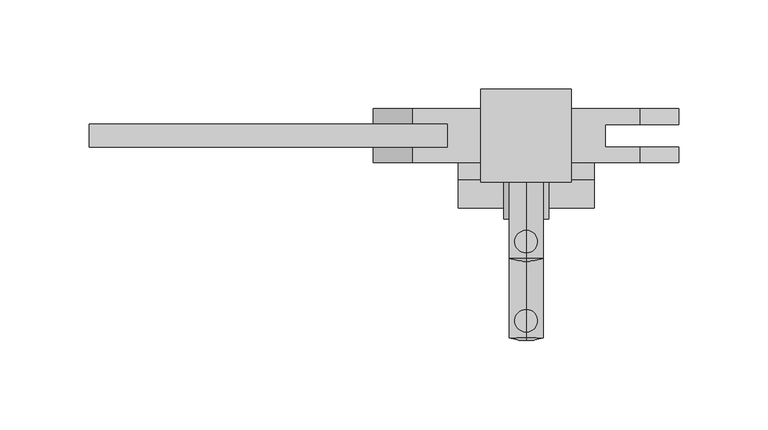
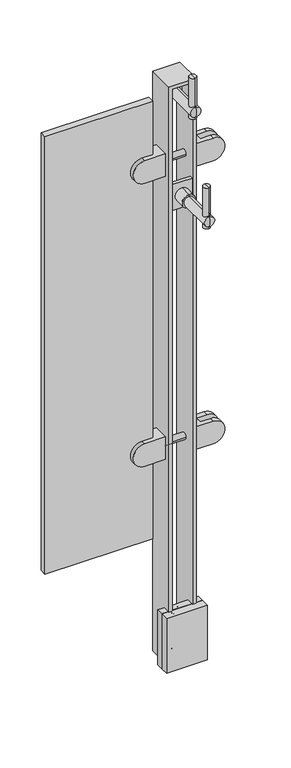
"""IFC4 building model written with IfcOpenShell, lengths in millimetres: proxy geometry, LIVERS_ICN - Glass Panel : LIVERS_ICN - Glass Panel."""

from ifc_helpers import new_model, si_unit, point, frame, origin, place, context, project, spatial, polyline, circle_curve, ellipse_curve, trimmed, outline, extrude, faceted_brep, source, transform, mapped, element, save
from ifc_brep_helpers import plane_surface, cylinder_surface, revolved_surface, advanced_brep


def building_element_proxy_cf4448e7(model_context):
    return source(origin(), model_context, "Body", "SolidModel", [
        advanced_brep(
        [(779.2517376, 60.3249609, 991.2180522), (779.2517376, 60.3249609, 978.5180522), (779.2517376, 60.3249609, 965.8180522), (779.2517376, 38.0999609, 991.2180522), (779.2517376, 38.0999609, 965.8180522), (779.2517376, 38.0999609, 978.5180522)],
        [
            (0, 1),
            (1, 2),
            (2, 0, circle_curve(frame((779.2517376, 60.3249609, 978.5180522), z_axis=(0.0, 1.0, 0.0), x_axis=(0.0, 0.0, -1.0)), 12.7)),
            (0, 2, circle_curve(frame((779.2517376, 60.3249609, 978.5180522), z_axis=(0.0, 1.0, 0.0), x_axis=(0.0, 0.0, -1.0)), 12.7)),
            (3, 0),
            (2, 4),
            (4, 3, circle_curve(frame((779.2517376, 38.0999609, 978.5180522), z_axis=(0.0, 1.0, 0.0), x_axis=(0.0, 0.0, -1.0)), 12.7)),
            (3, 4, circle_curve(frame((779.2517376, 38.0999609, 978.5180522), z_axis=(0.0, 1.0, 0.0), x_axis=(0.0, 0.0, -1.0)), 12.7)),
            (5, 3),
            (4, 5),
        ],
        [
            plane_surface(frame((779.2517376, 60.3249609, 978.5180522), z_axis=(0.0, 1.0, 0.0), x_axis=(0.0, 0.0, -1.0))),
            cylinder_surface(frame((779.2517376, 69.3828283, 978.5180522), z_axis=(0.0, -1.0, 0.0), x_axis=(0.0, 0.0, -1.0)), 12.7),
            plane_surface(frame((779.2517376, 38.0999609, 978.5180522), z_axis=(0.0, -1.0, 0.0), x_axis=(0.0, 0.0, -1.0))),
        ],
        [
            (0, [[1, 2, 3]]),
            (0, [[-2, -1, 4]]),
            (1, [[5, -3, 6, 7]]),
            (1, [[-6, -4, -5, 8]]),
            (2, [[9, -7, 10]]),
            (2, [[-10, -8, -9]]),
        ],
    ),
        advanced_brep(
        [(779.2517376, -25.4004131, 1043.1838845), (779.2517376, -19.0504161, 1043.1838845), (779.2517376, -12.7004191, 1043.1838845), (779.2517376, -25.4004131, 962.7878163), (779.2517376, -12.7004191, 962.7878163), (779.2517376, -19.0504161, 962.7878163)],
        [
            (0, 1),
            (1, 2),
            (2, 0, circle_curve(frame((779.2517376, -19.0504161, 1043.1838845), z_axis=(0.0, 0.0, 1.0), x_axis=(0.0, 1.0, 0.0)), 6.349997)),
            (0, 2, circle_curve(frame((779.2517376, -19.0504161, 1043.1838845), z_axis=(0.0, 0.0, 1.0), x_axis=(0.0, 1.0, 0.0)), 6.349997)),
            (3, 0),
            (2, 4),
            (4, 3, circle_curve(frame((779.2517376, -19.0504161, 962.7878163), z_axis=(0.0, 0.0, 1.0), x_axis=(0.0, 1.0, 0.0)), 6.349997)),
            (3, 4, circle_curve(frame((779.2517376, -19.0504161, 962.7878163), z_axis=(0.0, 0.0, 1.0), x_axis=(0.0, 1.0, 0.0)), 6.349997)),
            (5, 3),
            (4, 5),
        ],
        [
            plane_surface(frame((779.2517376, -19.0504161, 1043.1838845), z_axis=(0.0, 0.0, 1.0), x_axis=(0.0, 1.0, 0.0))),
            cylinder_surface(frame((779.2517376, -19.0504161, 1057.0348914), z_axis=(0.0, 0.0, -1.0), x_axis=(0.0, 1.0, 0.0)), 6.349997),
            plane_surface(frame((779.2517376, -19.0504161, 962.7878163), z_axis=(0.0, 0.0, -1.0), x_axis=(0.0, 1.0, 0.0))),
        ],
        [
            (0, [[1, 2, 3]]),
            (0, [[-2, -1, 4]]),
            (1, [[5, -3, 6, 7]]),
            (1, [[-6, -4, -5, 8]]),
            (2, [[9, -7, 10]]),
            (2, [[-10, -8, -9]]),
        ],
    ),
        advanced_brep(
        [(779.2517376, -30.1375464, 978.5180522), (779.2517376, -28.5500464, 988.0430522), (779.2517376, -28.5500464, 968.9930522), (779.2517376, 38.0999609, 988.0430522), (779.2517376, 38.0999609, 978.5180522), (779.2517376, 38.0999609, 968.9930522)],
        [
            (0, 1, circle_curve(frame((779.2517376, -0.7687964, 978.5180522), z_axis=(-1.0, 0.0, 0.0), x_axis=(0.0, 1.0, 0.0)), 29.36875)),
            (1, 2, circle_curve(frame((779.2517376, -28.5500464, 978.5180522), z_axis=(0.0, -1.0, 0.0), x_axis=(0.0, 0.0, -1.0)), 9.525)),
            (2, 0, circle_curve(frame((779.2517376, -0.7687964, 978.5180522), z_axis=(-1.0, 0.0, 0.0), x_axis=(0.0, 1.0, 0.0)), 29.36875)),
            (2, 1, circle_curve(frame((779.2517376, -28.5500464, 978.5180522), z_axis=(0.0, -1.0, 0.0), x_axis=(0.0, 0.0, -1.0)), 9.525)),
            (3, 4),
            (4, 5),
            (5, 3, circle_curve(frame((779.2517376, 38.0999609, 978.5180522), z_axis=(0.0, 1.0, 0.0), x_axis=(0.0, 0.0, -1.0)), 9.525)),
            (3, 5, circle_curve(frame((779.2517376, 38.0999609, 978.5180522), z_axis=(0.0, 1.0, 0.0), x_axis=(0.0, 0.0, -1.0)), 9.525)),
            (1, 3),
            (5, 2),
        ],
        [
            revolved_surface(trimmed(ellipse_curve(frame((779.2517376, -0.7687964, 978.5180522), z_axis=(-1.0, 0.0, 0.0), x_axis=(0.0, 1.0, 0.0)), 29.36875, 29.36875), [point((779.2517376, -28.5500464, 968.9930522))], [point((779.2517376, -30.1375464, 978.5180522))], True, "CARTESIAN"), (779.2517376, 30.3031204, 978.5180522), (0.0, -1.0, 0.0)),
            plane_surface(frame((779.2517376, 38.0999609, 978.5180522), z_axis=(0.0, 1.0, 0.0), x_axis=(0.0, 0.0, -1.0))),
            cylinder_surface(frame((779.2517376, 30.3031204, 978.5180522), z_axis=(0.0, -1.0, 0.0), x_axis=(0.0, 0.0, -1.0)), 9.525),
        ],
        [
            (0, [[1, 2, 3]]),
            (0, [[-3, 4, -1]]),
            (1, [[5, 6, 7]]),
            (1, [[-6, -5, 8]]),
            (2, [[9, -7, 10, -2]]),
            (2, [[-10, -8, -9, -4]]),
        ],
    ),
        extrude(outline(polyline([(798.3017376, 66.6749609), (798.3017376, 60.3249609), (760.2017376, 60.3249609), (760.2017376, 66.6749609), (798.3017376, 66.6749609)])), frame((0.0, 0.0, 953.1180522), z_axis=(0.0, 0.0, 1.0), x_axis=(1.0, 0.0, 0.0)), (0.0, 0.0, 1.0), 50.8),
        advanced_brep(
        [(779.2517376, 15.875, 802.0090959), (779.2517376, 15.875, 789.3090959), (779.2517376, 15.875, 776.6090959), (779.2517376, -6.35, 802.0090959), (779.2517376, -6.35, 776.6090959), (779.2517376, -6.35, 789.3090959)],
        [
            (0, 1),
            (1, 2),
            (2, 0, circle_curve(frame((779.2517376, 15.875, 789.3090959), z_axis=(0.0, 1.0, 0.0), x_axis=(0.0, 0.0, -1.0)), 12.7)),
            (0, 2, circle_curve(frame((779.2517376, 15.875, 789.3090959), z_axis=(0.0, 1.0, 0.0), x_axis=(0.0, 0.0, -1.0)), 12.7)),
            (3, 0),
            (2, 4),
            (4, 3, circle_curve(frame((779.2517376, -6.35, 789.3090959), z_axis=(0.0, 1.0, 0.0), x_axis=(0.0, 0.0, -1.0)), 12.7)),
            (3, 4, circle_curve(frame((779.2517376, -6.35, 789.3090959), z_axis=(0.0, 1.0, 0.0), x_axis=(0.0, 0.0, -1.0)), 12.7)),
            (5, 3),
            (4, 5),
        ],
        [
            plane_surface(frame((779.2517376, 15.875, 789.3090959), z_axis=(0.0, 1.0, 0.0), x_axis=(0.0, 0.0, -1.0))),
            cylinder_surface(frame((779.2517376, 24.9328674, 789.3090959), z_axis=(0.0, -1.0, 0.0), x_axis=(0.0, 0.0, -1.0)), 12.7),
            plane_surface(frame((779.2517376, -6.35, 789.3090959), z_axis=(0.0, -1.0, 0.0), x_axis=(0.0, 0.0, -1.0))),
        ],
        [
            (0, [[1, 2, 3]]),
            (0, [[-2, -1, 4]]),
            (1, [[5, -3, 6, 7]]),
            (1, [[-6, -4, -5, 8]]),
            (2, [[9, -7, 10]]),
            (2, [[-10, -8, -9]]),
        ],
    ),
        advanced_brep(
        [(779.2517376, -69.850374, 853.9749282), (779.2517376, -63.500377, 853.9749282), (779.2517376, -57.15038, 853.9749282), (779.2517376, -69.850374, 773.57886), (779.2517376, -57.15038, 773.57886), (779.2517376, -63.500377, 773.57886)],
        [
            (0, 1),
            (1, 2),
            (2, 0, circle_curve(frame((779.2517376, -63.500377, 853.9749282), z_axis=(0.0, 0.0, 1.0), x_axis=(0.0, 1.0, 0.0)), 6.349997)),
            (0, 2, circle_curve(frame((779.2517376, -63.500377, 853.9749282), z_axis=(0.0, 0.0, 1.0), x_axis=(0.0, 1.0, 0.0)), 6.349997)),
            (3, 0),
            (2, 4),
            (4, 3, circle_curve(frame((779.2517376, -63.500377, 773.57886), z_axis=(0.0, 0.0, 1.0), x_axis=(0.0, 1.0, 0.0)), 6.349997)),
            (3, 4, circle_curve(frame((779.2517376, -63.500377, 773.57886), z_axis=(0.0, 0.0, 1.0), x_axis=(0.0, 1.0, 0.0)), 6.349997)),
            (5, 3),
            (4, 5),
        ],
        [
            plane_surface(frame((779.2517376, -63.500377, 853.9749282), z_axis=(0.0, 0.0, 1.0), x_axis=(0.0, 1.0, 0.0))),
            cylinder_surface(frame((779.2517376, -63.500377, 867.8259351), z_axis=(0.0, 0.0, -1.0), x_axis=(0.0, 1.0, 0.0)), 6.349997),
            plane_surface(frame((779.2517376, -63.500377, 773.57886), z_axis=(0.0, 0.0, -1.0), x_axis=(0.0, 1.0, 0.0))),
        ],
        [
            (0, [[1, 2, 3]]),
            (0, [[-2, -1, 4]]),
            (1, [[5, -3, 6, 7]]),
            (1, [[-6, -4, -5, 8]]),
            (2, [[9, -7, 10]]),
            (2, [[-10, -8, -9]]),
        ],
    ),
        advanced_brep(
        [(779.2517376, -74.5875073, 789.3090959), (779.2517376, -73.0000073, 798.8340959), (779.2517376, -73.0000073, 779.7840959), (779.2517376, -6.35, 798.8340959), (779.2517376, -6.35, 789.3090959), (779.2517376, -6.35, 779.7840959)],
        [
            (0, 1, circle_curve(frame((779.2517376, -45.2187573, 789.3090959), z_axis=(-1.0, 0.0, 0.0), x_axis=(0.0, 1.0, 0.0)), 29.36875)),
            (1, 2, circle_curve(frame((779.2517376, -73.0000073, 789.3090959), z_axis=(0.0, -1.0, 0.0), x_axis=(0.0, 0.0, -1.0)), 9.525)),
            (2, 0, circle_curve(frame((779.2517376, -45.2187573, 789.3090959), z_axis=(-1.0, 0.0, 0.0), x_axis=(0.0, 1.0, 0.0)), 29.36875)),
            (2, 1, circle_curve(frame((779.2517376, -73.0000073, 789.3090959), z_axis=(0.0, -1.0, 0.0), x_axis=(0.0, 0.0, -1.0)), 9.525)),
            (3, 4),
            (4, 5),
            (5, 3, circle_curve(frame((779.2517376, -6.35, 789.3090959), z_axis=(0.0, 1.0, 0.0), x_axis=(0.0, 0.0, -1.0)), 9.525)),
            (3, 5, circle_curve(frame((779.2517376, -6.35, 789.3090959), z_axis=(0.0, 1.0, 0.0), x_axis=(0.0, 0.0, -1.0)), 9.525)),
            (1, 3),
            (5, 2),
        ],
        [
            revolved_surface(trimmed(ellipse_curve(frame((779.2517376, -45.2187573, 789.3090959), z_axis=(-1.0, 0.0, 0.0), x_axis=(0.0, 1.0, 0.0)), 29.36875, 29.36875), [point((779.2517376, -73.0000073, 779.7840959))], [point((779.2517376, -74.5875073, 789.3090959))], True, "CARTESIAN"), (779.2517376, -14.1468405, 789.3090959), (0.0, -1.0, 0.0)),
            plane_surface(frame((779.2517376, -6.35, 789.3090959), z_axis=(0.0, 1.0, 0.0), x_axis=(0.0, 0.0, -1.0))),
            cylinder_surface(frame((779.2517376, -14.1468405, 789.3090959), z_axis=(0.0, -1.0, 0.0), x_axis=(0.0, 0.0, -1.0)), 9.525),
        ],
        [
            (0, [[1, 2, 3]]),
            (0, [[-3, 4, -1]]),
            (1, [[5, 6, 7]]),
            (1, [[-6, -5, 8]]),
            (2, [[9, -7, 10, -2]]),
            (2, [[-10, -8, -9, -4]]),
        ],
    ),
        extrude(outline(polyline([(798.3017376, 22.225), (798.3017376, 15.875), (760.2017376, 15.875), (760.2017376, 22.225), (798.3017376, 22.225)])), frame((0.0, 0.0, 763.9090959), z_axis=(0.0, 0.0, 1.0), x_axis=(1.0, 0.0, 0.0)), (0.0, 0.0, 1.0), 50.8),
        advanced_brep(
        [(753.8517376, 55.5624457, 313.5369168), (753.8517376, 25.3999457, 313.5369168), (753.8517376, 25.3999457, 269.0869168), (753.8517376, 55.5624457, 269.0869168), (715.6506436, 55.5624457, 269.0869168), (715.6506436, 55.5624457, 313.5369168), (715.6506436, 25.3999457, 269.0869168), (715.6506436, 34.1311957, 269.0869168), (734.9798183, 34.1311957, 269.0869168), (734.9798183, 46.8311957, 269.0869168), (715.6506436, 46.8311957, 269.0869168), (715.6506436, 25.3999457, 313.5369168), (715.6506436, 46.8311957, 313.5369168), (734.9798183, 46.8311957, 313.5369168), (734.9798183, 34.1311957, 313.5369168), (715.6506436, 34.1311957, 313.5369168)],
        [
            (0, 1),
            (1, 2),
            (2, 3),
            (3, 0),
            (3, 4),
            (4, 5, circle_curve(frame((715.6506436, 55.5624457, 291.3119168), z_axis=(0.0, 1.0, 0.0), x_axis=(0.0, 0.0, -1.0)), 22.225)),
            (5, 0),
            (2, 6),
            (6, 7),
            (7, 8),
            (8, 9),
            (9, 10),
            (10, 4),
            (1, 11),
            (11, 6, circle_curve(frame((715.6506436, 25.3999457, 291.3119168), z_axis=(0.0, -1.0, 0.0), x_axis=(0.0, 0.0, -1.0)), 22.225)),
            (5, 12),
            (12, 13),
            (13, 14),
            (14, 15),
            (15, 11),
            (13, 9),
            (8, 14),
            (12, 10, circle_curve(frame((715.6506436, 46.8311957, 291.3119168), z_axis=(0.0, -1.0, 0.0), x_axis=(0.0, 0.0, -1.0)), 22.225)),
            (7, 15, circle_curve(frame((715.6506436, 34.1311957, 291.3119168), z_axis=(0.0, 1.0, 0.0), x_axis=(0.0, 0.0, -1.0)), 22.225)),
        ],
        [
            plane_surface(frame((753.8517376, 55.5624457, 269.0869168), z_axis=(1.0, 0.0, 0.0), x_axis=(0.0, 0.0, 1.0))),
            plane_surface(frame((693.3486568, 55.5624457, 313.5369168), z_axis=(0.0, 1.0, 0.0), x_axis=(1.0, 0.0, 0.0))),
            plane_surface(frame((693.3486568, 55.5624457, 269.0869168), z_axis=(0.0, 0.0, -1.0), x_axis=(1.0, 0.0, 0.0))),
            plane_surface(frame((693.3486568, 25.3999457, 269.0869168), z_axis=(0.0, -1.0, 0.0), x_axis=(1.0, 0.0, 0.0))),
            plane_surface(frame((693.3486568, 25.3999457, 313.5369168), z_axis=(0.0, 0.0, 1.0), x_axis=(1.0, 0.0, 0.0))),
            plane_surface(frame((734.9798183, 46.8311957, 269.0869168), z_axis=(-1.0, 0.0, 0.0), x_axis=(0.0, 0.0, 1.0))),
            plane_surface(frame((693.3486568, 46.8311957, 313.5369168), z_axis=(0.0, -1.0, 0.0), x_axis=(1.0, 0.0, 0.0))),
            plane_surface(frame((693.3486568, 34.1311957, 269.0869168), z_axis=(0.0, 1.0, 0.0), x_axis=(1.0, 0.0, 0.0))),
            cylinder_surface(frame((715.6506436, 55.5624457, 291.3119168), z_axis=(0.0, 1.0, 0.0), x_axis=(0.0, 0.0, -1.0)), 22.225),
        ],
        [
            (0, [[1, 2, 3, 4]]),
            (1, [[-4, 5, 6, 7]]),
            (2, [[-3, 8, 9, 10, 11, 12, 13, -5]]),
            (3, [[-2, 14, 15, -8]]),
            (4, [[-1, -7, 16, 17, 18, 19, 20, -14]]),
            (5, [[21, -11, 22, -18]]),
            (6, [[-21, -17, 23, -12]]),
            (7, [[-22, -10, 24, -19]]),
            (8, [[-6, -13, -23, -16]]),
            (8, [[-9, -15, -20, -24]]),
        ],
    ),
        advanced_brep(
        [(804.6517376, 55.5624457, 313.5369168), (804.6517376, 55.5624457, 269.0869168), (804.6517376, 25.3999457, 269.0869168), (804.6517376, 25.3999457, 313.5369168), (842.8528316, 55.5624457, 313.5369168), (842.8528316, 55.5624457, 269.0869168), (842.8528316, 46.8311957, 269.0869168), (823.5236568, 46.8311957, 269.0869168), (823.5236568, 34.1311957, 269.0869168), (842.8528316, 34.1311957, 269.0869168), (842.8528316, 25.3999457, 269.0869168), (842.8528316, 25.3999457, 313.5369168), (842.8528316, 34.1311957, 313.5369168), (823.5236568, 34.1311957, 313.5369168), (823.5236568, 46.8311957, 313.5369168), (842.8528316, 46.8311957, 313.5369168)],
        [
            (0, 1),
            (1, 2),
            (2, 3),
            (3, 0),
            (0, 4),
            (4, 5, circle_curve(frame((842.8528316, 55.5624457, 291.3119168), z_axis=(0.0, 1.0, 0.0), x_axis=(0.0, 0.0, -1.0)), 22.225)),
            (5, 1),
            (5, 6),
            (6, 7),
            (7, 8),
            (8, 9),
            (9, 10),
            (10, 2),
            (10, 11, circle_curve(frame((842.8528316, 25.3999457, 291.3119168), z_axis=(0.0, -1.0, 0.0), x_axis=(0.0, 0.0, -1.0)), 22.225)),
            (11, 3),
            (11, 12),
            (12, 13),
            (13, 14),
            (14, 15),
            (15, 4),
            (13, 8),
            (7, 14),
            (6, 15, circle_curve(frame((842.8528316, 46.8311957, 291.3119168), z_axis=(0.0, -1.0, 0.0), x_axis=(0.0, 0.0, -1.0)), 22.225)),
            (12, 9, circle_curve(frame((842.8528316, 34.1311957, 291.3119168), z_axis=(0.0, 1.0, 0.0), x_axis=(0.0, 0.0, -1.0)), 22.225)),
        ],
        [
            plane_surface(frame((804.6517376, 55.5624457, 269.0869168), z_axis=(-1.0, 0.0, 0.0), x_axis=(0.0, 0.0, 1.0))),
            plane_surface(frame((865.1548183, 55.5624457, 313.5369168), z_axis=(0.0, 1.0, 0.0), x_axis=(-1.0, 0.0, 0.0))),
            plane_surface(frame((865.1548183, 55.5624457, 269.0869168), z_axis=(0.0, 0.0, -1.0), x_axis=(-1.0, 0.0, 0.0))),
            plane_surface(frame((865.1548183, 25.3999457, 269.0869168), z_axis=(0.0, -1.0, 0.0), x_axis=(-1.0, 0.0, 0.0))),
            plane_surface(frame((865.1548183, 25.3999457, 313.5369168), z_axis=(0.0, 0.0, 1.0), x_axis=(-1.0, 0.0, 0.0))),
            plane_surface(frame((823.5236568, 46.8311957, 269.0869168), z_axis=(1.0, 0.0, 0.0), x_axis=(0.0, 0.0, 1.0))),
            plane_surface(frame((865.1548183, 46.8311957, 313.5369168), z_axis=(0.0, -1.0, 0.0), x_axis=(-1.0, 0.0, 0.0))),
            plane_surface(frame((865.1548183, 34.1311957, 269.0869168), z_axis=(0.0, 1.0, 0.0), x_axis=(-1.0, 0.0, 0.0))),
            cylinder_surface(frame((842.8528316, 55.5624457, 291.3119168), z_axis=(0.0, 1.0, 0.0), x_axis=(0.0, 0.0, -1.0)), 22.225),
        ],
        [
            (0, [[1, 2, 3, 4]]),
            (1, [[5, 6, 7, -1]]),
            (2, [[-7, 8, 9, 10, 11, 12, 13, -2]]),
            (3, [[-13, 14, 15, -3]]),
            (4, [[-15, 16, 17, 18, 19, 20, -5, -4]]),
            (5, [[-18, 21, -10, 22]]),
            (6, [[-9, 23, -19, -22]]),
            (7, [[-17, 24, -11, -21]]),
            (8, [[-20, -23, -8, -6]]),
            (8, [[-24, -16, -14, -12]]),
        ],
    ),
        advanced_brep(
        [(753.8517376, 55.5624457, 872.3369168), (753.8517376, 25.3999457, 872.3369168), (753.8517376, 25.3999457, 827.8869168), (753.8517376, 55.5624457, 827.8869168), (715.6506436, 55.5624457, 827.8869168), (715.6506436, 55.5624457, 872.3369168), (715.6506436, 25.3999457, 827.8869168), (715.6506436, 34.1311957, 827.8869168), (734.9798183, 34.1311957, 827.8869168), (734.9798183, 46.8311957, 827.8869168), (715.6506436, 46.8311957, 827.8869168), (715.6506436, 25.3999457, 872.3369168), (715.6506436, 46.8311957, 872.3369168), (734.9798183, 46.8311957, 872.3369168), (734.9798183, 34.1311957, 872.3369168), (715.6506436, 34.1311957, 872.3369168)],
        [
            (0, 1),
            (1, 2),
            (2, 3),
            (3, 0),
            (3, 4),
            (4, 5, circle_curve(frame((715.6506436, 55.5624457, 850.1119168), z_axis=(0.0, 1.0, 0.0), x_axis=(0.0, 0.0, -1.0)), 22.225)),
            (5, 0),
            (2, 6),
            (6, 7),
            (7, 8),
            (8, 9),
            (9, 10),
            (10, 4),
            (1, 11),
            (11, 6, circle_curve(frame((715.6506436, 25.3999457, 850.1119168), z_axis=(0.0, -1.0, 0.0), x_axis=(0.0, 0.0, -1.0)), 22.225)),
            (5, 12),
            (12, 13),
            (13, 14),
            (14, 15),
            (15, 11),
            (13, 9),
            (8, 14),
            (12, 10, circle_curve(frame((715.6506436, 46.8311957, 850.1119168), z_axis=(0.0, -1.0, 0.0), x_axis=(0.0, 0.0, -1.0)), 22.225)),
            (7, 15, circle_curve(frame((715.6506436, 34.1311957, 850.1119168), z_axis=(0.0, 1.0, 0.0), x_axis=(0.0, 0.0, -1.0)), 22.225)),
        ],
        [
            plane_surface(frame((753.8517376, 55.5624457, 827.8869168), z_axis=(1.0, 0.0, 0.0), x_axis=(0.0, 0.0, 1.0))),
            plane_surface(frame((693.3486568, 55.5624457, 872.3369168), z_axis=(0.0, 1.0, 0.0), x_axis=(1.0, 0.0, 0.0))),
            plane_surface(frame((693.3486568, 55.5624457, 827.8869168), z_axis=(0.0, 0.0, -1.0), x_axis=(1.0, 0.0, 0.0))),
            plane_surface(frame((693.3486568, 25.3999457, 827.8869168), z_axis=(0.0, -1.0, 0.0), x_axis=(1.0, 0.0, 0.0))),
            plane_surface(frame((693.3486568, 25.3999457, 872.3369168), z_axis=(0.0, 0.0, 1.0), x_axis=(1.0, 0.0, 0.0))),
            plane_surface(frame((734.9798183, 46.8311957, 827.8869168), z_axis=(-1.0, 0.0, 0.0), x_axis=(0.0, 0.0, 1.0))),
            plane_surface(frame((693.3486568, 46.8311957, 872.3369168), z_axis=(0.0, -1.0, 0.0), x_axis=(1.0, 0.0, 0.0))),
            plane_surface(frame((693.3486568, 34.1311957, 827.8869168), z_axis=(0.0, 1.0, 0.0), x_axis=(1.0, 0.0, 0.0))),
            cylinder_surface(frame((715.6506436, 55.5624457, 850.1119168), z_axis=(0.0, 1.0, 0.0), x_axis=(0.0, 0.0, -1.0)), 22.225),
        ],
        [
            (0, [[1, 2, 3, 4]]),
            (1, [[-4, 5, 6, 7]]),
            (2, [[-3, 8, 9, 10, 11, 12, 13, -5]]),
            (3, [[-2, 14, 15, -8]]),
            (4, [[-1, -7, 16, 17, 18, 19, 20, -14]]),
            (5, [[21, -11, 22, -18]]),
            (6, [[-21, -17, 23, -12]]),
            (7, [[-22, -10, 24, -19]]),
            (8, [[-6, -13, -23, -16]]),
            (8, [[-9, -15, -20, -24]]),
        ],
    ),
        advanced_brep(
        [(804.6517376, 55.5624457, 872.3369168), (804.6517376, 55.5624457, 827.8869168), (804.6517376, 25.3999457, 827.8869168), (804.6517376, 25.3999457, 872.3369168), (842.8528316, 55.5624457, 872.3369168), (842.8528316, 55.5624457, 827.8869168), (842.8528316, 46.8311957, 827.8869168), (823.5236568, 46.8311957, 827.8869168), (823.5236568, 34.1311957, 827.8869168), (842.8528316, 34.1311957, 827.8869168), (842.8528316, 25.3999457, 827.8869168), (842.8528316, 25.3999457, 872.3369168), (842.8528316, 34.1311957, 872.3369168), (823.5236568, 34.1311957, 872.3369168), (823.5236568, 46.8311957, 872.3369168), (842.8528316, 46.8311957, 872.3369168)],
        [
            (0, 1),
            (1, 2),
            (2, 3),
            (3, 0),
            (0, 4),
            (4, 5, circle_curve(frame((842.8528316, 55.5624457, 850.1119168), z_axis=(0.0, 1.0, 0.0), x_axis=(0.0, 0.0, -1.0)), 22.225)),
            (5, 1),
            (5, 6),
            (6, 7),
            (7, 8),
            (8, 9),
            (9, 10),
            (10, 2),
            (10, 11, circle_curve(frame((842.8528316, 25.3999457, 850.1119168), z_axis=(0.0, -1.0, 0.0), x_axis=(0.0, 0.0, -1.0)), 22.225)),
            (11, 3),
            (11, 12),
            (12, 13),
            (13, 14),
            (14, 15),
            (15, 4),
            (13, 8),
            (7, 14),
            (6, 15, circle_curve(frame((842.8528316, 46.8311957, 850.1119168), z_axis=(0.0, -1.0, 0.0), x_axis=(0.0, 0.0, -1.0)), 22.225)),
            (12, 9, circle_curve(frame((842.8528316, 34.1311957, 850.1119168), z_axis=(0.0, 1.0, 0.0), x_axis=(0.0, 0.0, -1.0)), 22.225)),
        ],
        [
            plane_surface(frame((804.6517376, 55.5624457, 827.8869168), z_axis=(-1.0, 0.0, 0.0), x_axis=(0.0, 0.0, 1.0))),
            plane_surface(frame((865.1548183, 55.5624457, 872.3369168), z_axis=(0.0, 1.0, 0.0), x_axis=(-1.0, 0.0, 0.0))),
            plane_surface(frame((865.1548183, 55.5624457, 827.8869168), z_axis=(0.0, 0.0, -1.0), x_axis=(-1.0, 0.0, 0.0))),
            plane_surface(frame((865.1548183, 25.3999457, 827.8869168), z_axis=(0.0, -1.0, 0.0), x_axis=(-1.0, 0.0, 0.0))),
            plane_surface(frame((865.1548183, 25.3999457, 872.3369168), z_axis=(0.0, 0.0, 1.0), x_axis=(-1.0, 0.0, 0.0))),
            plane_surface(frame((823.5236568, 46.8311957, 827.8869168), z_axis=(1.0, 0.0, 0.0), x_axis=(0.0, 0.0, 1.0))),
            plane_surface(frame((865.1548183, 46.8311957, 872.3369168), z_axis=(0.0, -1.0, 0.0), x_axis=(-1.0, 0.0, 0.0))),
            plane_surface(frame((865.1548183, 34.1311957, 827.8869168), z_axis=(0.0, 1.0, 0.0), x_axis=(-1.0, 0.0, 0.0))),
            cylinder_surface(frame((842.8528316, 55.5624457, 850.1119168), z_axis=(0.0, 1.0, 0.0), x_axis=(0.0, 0.0, -1.0)), 22.225),
        ],
        [
            (0, [[1, 2, 3, 4]]),
            (1, [[5, 6, 7, -1]]),
            (2, [[-7, 8, 9, 10, 11, 12, 13, -2]]),
            (3, [[-13, 14, 15, -3]]),
            (4, [[-15, 16, 17, 18, 19, 20, -5, -4]]),
            (5, [[-18, 21, -10, 22]]),
            (6, [[-9, 23, -19, -22]]),
            (7, [[-17, 24, -11, -21]]),
            (8, [[-20, -23, -8, -6]]),
            (8, [[-24, -16, -14, -12]]),
        ],
    ),
        advanced_brep(
        [(779.2517376, 28.575, -125.3541166), (779.2517376, 29.7562407, -125.3541166), (779.2517376, 29.7562407, -103.1291055), (779.2517376, 28.575, -103.1291055), (779.2517376, 28.575, -114.2416111), (779.2517376, 32.325, -119.8541166), (779.2517376, 30.8816229, -114.2416111), (779.2517376, 32.325, -108.6291055), (779.2517376, 34.8740117, -119.8541166), (779.2517376, 34.8740117, -108.6291055), (779.2517376, 33.8500285, -122.802123), (779.2517376, 33.8500285, -105.6810991), (779.2517376, 31.8562692, -124.5603989), (779.2517376, 31.8562692, -103.9228232)],
        [
            (0, 1),
            (1, 2, circle_curve(frame((779.2517376, 29.7562407, -114.2416111), z_axis=(0.0, -1.0, 0.0), x_axis=(0.0, 0.0, 1.0)), 11.1125056)),
            (2, 3),
            (3, 0, circle_curve(frame((779.2517376, 28.575, -114.2416111), z_axis=(0.0, 1.0, 0.0), x_axis=(0.0, 0.0, 1.0)), 11.1125056)),
            (2, 1, circle_curve(frame((779.2517376, 29.7562407, -114.2416111), z_axis=(0.0, -1.0, 0.0), x_axis=(0.0, 0.0, 1.0)), 11.1125056)),
            (0, 3, circle_curve(frame((779.2517376, 28.575, -114.2416111), z_axis=(0.0, 1.0, 0.0), x_axis=(0.0, 0.0, 1.0)), 11.1125056)),
            (4, 0),
            (3, 4),
            (5, 6),
            (6, 7),
            (7, 5, circle_curve(frame((779.2517376, 32.325, -114.2416111), z_axis=(0.0, 1.0, 0.0), x_axis=(0.0, 0.0, 1.0)), 5.6125056)),
            (5, 7, circle_curve(frame((779.2517376, 32.325, -114.2416111), z_axis=(0.0, 1.0, 0.0), x_axis=(0.0, 0.0, 1.0)), 5.6125056)),
            (8, 5),
            (7, 9),
            (9, 8, circle_curve(frame((779.2517376, 34.8740117, -114.2416111), z_axis=(0.0, 1.0, 0.0), x_axis=(0.0, 0.0, 1.0)), 5.6125056)),
            (8, 9, circle_curve(frame((779.2517376, 34.8740117, -114.2416111), z_axis=(0.0, 1.0, 0.0), x_axis=(0.0, 0.0, 1.0)), 5.6125056)),
            (10, 8, circle_curve(frame((779.2517376, 31.75, -120.4208407), z_axis=(1.0, 0.0, 0.0), x_axis=(0.0, -1.0, 0.0)), 3.175)),
            (9, 11, circle_curve(frame((779.2517376, 31.75, -108.0623814), z_axis=(1.0, 0.0, 0.0), x_axis=(0.0, -1.0, 0.0)), 3.175)),
            (11, 10, circle_curve(frame((779.2517376, 33.8500285, -114.2416111), z_axis=(0.0, 1.0, 0.0), x_axis=(0.0, 0.0, 1.0)), 8.560512)),
            (10, 11, circle_curve(frame((779.2517376, 33.8500285, -114.2416111), z_axis=(0.0, 1.0, 0.0), x_axis=(0.0, 0.0, 1.0)), 8.560512)),
            (12, 10),
            (11, 13),
            (13, 12, circle_curve(frame((779.2517376, 31.8562692, -114.2416111), z_axis=(0.0, 1.0, 0.0), x_axis=(0.0, 0.0, 1.0)), 10.3187879)),
            (12, 13, circle_curve(frame((779.2517376, 31.8562692, -114.2416111), z_axis=(0.0, 1.0, 0.0), x_axis=(0.0, 0.0, 1.0)), 10.3187879)),
            (1, 12, circle_curve(frame((779.2517376, 29.7562407, -122.1791166), z_axis=(1.0, 0.0, 0.0), x_axis=(0.0, -1.0, 0.0)), 3.175)),
            (13, 2, circle_curve(frame((779.2517376, 29.7562407, -106.3041055), z_axis=(1.0, 0.0, 0.0), x_axis=(0.0, -1.0, 0.0)), 3.175)),
        ],
        [
            cylinder_surface(frame((779.2517376, 28.575, -114.2416111), z_axis=(0.0, -1.0, 0.0), x_axis=(0.0, 0.0, 1.0)), 11.1125056),
            plane_surface(frame((779.2517376, 28.575, -114.2416111), z_axis=(0.0, -1.0, 0.0), x_axis=(0.0, 0.0, 1.0))),
            revolved_surface(polyline([(779.2517376, 30.8816229, -114.2416111), (779.2517376, 32.325, -108.6291055)]), (779.2517376, 28.575, -114.2416111), (0.0, -1.0, 0.0)),
            revolved_surface(polyline([(779.2517376, 32.325, -108.6291055), (779.2517376, 34.8740117, -108.6291055)]), (779.2517376, 28.575, -114.2416111), (0.0, -1.0, 0.0)),
            revolved_surface(trimmed(ellipse_curve(frame((779.2517376, 31.75, -108.0623814), z_axis=(1.0, 0.0, 0.0), x_axis=(0.0, -1.0, 0.0)), 3.175, 3.175), [point((779.2517376, 34.8740117, -108.6291055))], [point((779.2517376, 33.8500285, -105.6810991))], True, "CARTESIAN"), (779.2517376, 28.575, -114.2416111), (0.0, -1.0, 0.0)),
            revolved_surface(polyline([(779.2517376, 33.8500285, -105.6810991), (779.2517376, 31.8562692, -103.9228232)]), (779.2517376, 28.575, -114.2416111), (0.0, -1.0, 0.0)),
            revolved_surface(trimmed(ellipse_curve(frame((779.2517376, 29.7562407, -106.3041055), z_axis=(1.0, 0.0, 0.0), x_axis=(0.0, -1.0, 0.0)), 3.175, 3.175), [point((779.2517376, 31.8562692, -103.9228232))], [point((779.2517376, 29.7562407, -103.1291055))], True, "CARTESIAN"), (779.2517376, 28.575, -114.2416111), (0.0, -1.0, 0.0)),
        ],
        [
            (0, [[1, 2, 3, 4]]),
            (0, [[-3, 5, -1, 6]]),
            (1, [[7, -4, 8]]),
            (1, [[-8, -6, -7]]),
            (2, [[9, 10, 11]]),
            (2, [[-10, -9, 12]]),
            (3, [[13, -11, 14, 15]]),
            (3, [[-14, -12, -13, 16]]),
            (4, [[17, -15, 18, 19]]),
            (4, [[-18, -16, -17, 20]]),
            (5, [[21, -19, 22, 23]]),
            (5, [[-22, -20, -21, 24]]),
            (6, [[25, -23, 26, -2]]),
            (6, [[-26, -24, -25, -5]]),
        ],
    ),
        advanced_brep(
        [(779.2517376, 28.575, -55.5041166), (779.2517376, 29.7562407, -55.5041166), (779.2517376, 29.7562407, -33.2791055), (779.2517376, 28.575, -33.2791055), (779.2517376, 28.575, -44.3916111), (779.2517376, 33.8500285, -52.952123), (779.2517376, 34.8740117, -50.0041166), (779.2517376, 34.8740117, -38.7791055), (779.2517376, 33.8500285, -35.8310991), (779.2517376, 31.8562692, -54.7103989), (779.2517376, 31.8562692, -34.0728232), (779.2517376, 32.325, -50.0041166), (779.2517376, 30.8816229, -44.3916111), (779.2517376, 32.325, -38.7791055)],
        [
            (0, 1),
            (1, 2, circle_curve(frame((779.2517376, 29.7562407, -44.3916111), z_axis=(0.0, -1.0, 0.0), x_axis=(0.0, 0.0, 1.0)), 11.1125056)),
            (2, 3),
            (3, 0, circle_curve(frame((779.2517376, 28.575, -44.3916111), z_axis=(0.0, 1.0, 0.0), x_axis=(0.0, 0.0, 1.0)), 11.1125056)),
            (2, 1, circle_curve(frame((779.2517376, 29.7562407, -44.3916111), z_axis=(0.0, -1.0, 0.0), x_axis=(0.0, 0.0, 1.0)), 11.1125056)),
            (0, 3, circle_curve(frame((779.2517376, 28.575, -44.3916111), z_axis=(0.0, 1.0, 0.0), x_axis=(0.0, 0.0, 1.0)), 11.1125056)),
            (4, 0),
            (3, 4),
            (5, 6, circle_curve(frame((779.2517376, 31.75, -50.5708407), z_axis=(1.0, 0.0, 0.0), x_axis=(0.0, -1.0, 0.0)), 3.175)),
            (6, 7, circle_curve(frame((779.2517376, 34.8740117, -44.3916111), z_axis=(0.0, -1.0, 0.0), x_axis=(0.0, 0.0, 1.0)), 5.6125056)),
            (7, 8, circle_curve(frame((779.2517376, 31.75, -38.2123814), z_axis=(1.0, 0.0, 0.0), x_axis=(0.0, -1.0, 0.0)), 3.175)),
            (8, 5, circle_curve(frame((779.2517376, 33.8500285, -44.3916111), z_axis=(0.0, 1.0, 0.0), x_axis=(0.0, 0.0, 1.0)), 8.560512)),
            (7, 6, circle_curve(frame((779.2517376, 34.8740117, -44.3916111), z_axis=(0.0, -1.0, 0.0), x_axis=(0.0, 0.0, 1.0)), 5.6125056)),
            (5, 8, circle_curve(frame((779.2517376, 33.8500285, -44.3916111), z_axis=(0.0, 1.0, 0.0), x_axis=(0.0, 0.0, 1.0)), 8.560512)),
            (9, 5),
            (8, 10),
            (10, 9, circle_curve(frame((779.2517376, 31.8562692, -44.3916111), z_axis=(0.0, 1.0, 0.0), x_axis=(0.0, 0.0, 1.0)), 10.3187879)),
            (9, 10, circle_curve(frame((779.2517376, 31.8562692, -44.3916111), z_axis=(0.0, 1.0, 0.0), x_axis=(0.0, 0.0, 1.0)), 10.3187879)),
            (1, 9, circle_curve(frame((779.2517376, 29.7562407, -52.3291166), z_axis=(1.0, 0.0, 0.0), x_axis=(0.0, -1.0, 0.0)), 3.175)),
            (10, 2, circle_curve(frame((779.2517376, 29.7562407, -36.4541055), z_axis=(1.0, 0.0, 0.0), x_axis=(0.0, -1.0, 0.0)), 3.175)),
            (11, 12),
            (12, 13),
            (13, 11, circle_curve(frame((779.2517376, 32.325, -44.3916111), z_axis=(0.0, 1.0, 0.0), x_axis=(0.0, 0.0, 1.0)), 5.6125056)),
            (11, 13, circle_curve(frame((779.2517376, 32.325, -44.3916111), z_axis=(0.0, 1.0, 0.0), x_axis=(0.0, 0.0, 1.0)), 5.6125056)),
            (6, 11),
            (13, 7),
        ],
        [
            cylinder_surface(frame((779.2517376, 28.575, -44.3916111), z_axis=(0.0, -1.0, 0.0), x_axis=(0.0, 0.0, 1.0)), 11.1125056),
            plane_surface(frame((779.2517376, 28.575, -44.3916111), z_axis=(0.0, -1.0, 0.0), x_axis=(0.0, 0.0, 1.0))),
            revolved_surface(trimmed(ellipse_curve(frame((779.2517376, 31.75, -38.2123814), z_axis=(1.0, 0.0, 0.0), x_axis=(0.0, -1.0, 0.0)), 3.175, 3.175), [point((779.2517376, 34.8740117, -38.7791055))], [point((779.2517376, 33.8500285, -35.8310991))], True, "CARTESIAN"), (779.2517376, 28.575, -44.3916111), (0.0, -1.0, 0.0)),
            revolved_surface(polyline([(779.2517376, 33.8500285, -35.8310991), (779.2517376, 31.8562692, -34.0728232)]), (779.2517376, 28.575, -44.3916111), (0.0, -1.0, 0.0)),
            revolved_surface(trimmed(ellipse_curve(frame((779.2517376, 29.7562407, -36.4541055), z_axis=(1.0, 0.0, 0.0), x_axis=(0.0, -1.0, 0.0)), 3.175, 3.175), [point((779.2517376, 31.8562692, -34.0728232))], [point((779.2517376, 29.7562407, -33.2791055))], True, "CARTESIAN"), (779.2517376, 28.575, -44.3916111), (0.0, -1.0, 0.0)),
            revolved_surface(polyline([(779.2517376, 30.8816229, -44.3916111), (779.2517376, 32.325, -38.7791055)]), (779.2517376, 28.575, -44.3916111), (0.0, -1.0, 0.0)),
            revolved_surface(polyline([(779.2517376, 32.325, -38.7791055), (779.2517376, 34.8740117, -38.7791055)]), (779.2517376, 28.575, -44.3916111), (0.0, -1.0, 0.0)),
        ],
        [
            (0, [[1, 2, 3, 4]]),
            (0, [[-3, 5, -1, 6]]),
            (1, [[7, -4, 8]]),
            (1, [[-8, -6, -7]]),
            (2, [[9, 10, 11, 12]]),
            (2, [[-11, 13, -9, 14]]),
            (3, [[15, -12, 16, 17]]),
            (3, [[-16, -14, -15, 18]]),
            (4, [[19, -17, 20, -2]]),
            (4, [[-20, -18, -19, -5]]),
            (5, [[21, 22, 23]]),
            (5, [[-22, -21, 24]]),
            (6, [[25, -23, 26, -10]]),
            (6, [[-26, -24, -25, -13]]),
        ],
    ),
        faceted_brep([(804.6517376, 14.2874305, 1010.2680522), (804.6517376, 14.2874305, -133.2916111), (804.6517376, 15.875, -133.2916111), (804.6517376, 15.875, -25.3416111), (804.6517376, 28.575, -25.3416111), (804.6517376, 28.575, -133.2916111), (804.6517376, 66.6749609, -133.2916111), (804.6517376, 66.6749609, 1010.2680522), (798.3017376, 66.6749609, -133.2916111), (798.3017376, 28.575, -133.2916111), (798.3017376, 28.575, -25.3416111), (798.3017376, 15.875, -25.3416111), (798.3017376, 15.875, -133.2916111), (798.3017376, 14.2874305, -133.2916111), (798.3017376, 14.2874305, 1003.9180522), (798.3017376, 66.6749609, 1003.9180522), (741.1517376, 28.575, -133.2916111), (753.8517376, 28.575, -133.2916111), (753.8517376, 66.6749609, -133.2916111), (760.2017376, 66.6749609, -133.2916111), (760.2017376, 28.575, -133.2916111), (817.3517376, 28.575, -133.2916111), (817.3517376, 15.875, -133.2916111), (760.2017376, 15.875, -133.2916111), (760.2017376, 14.2874305, -133.2916111), (753.8517376, 14.2874305, -133.2916111), (753.8517376, 15.875, -133.2916111), (741.1517376, 15.875, -133.2916111), (753.8517376, 14.2874305, 1010.2680522), (760.2017376, 14.2874305, 1003.9180522), (753.8517376, 66.6749609, 1010.2680522), (760.2017376, 66.6749609, 1003.9180522), (760.2017376, 15.875, -25.3416111), (760.2017376, 28.575, -25.3416111), (753.8517376, 28.575, -25.3416111), (753.8517376, 15.875, -25.3416111), (817.3517376, 28.575, -25.3416111), (741.1517376, 28.575, -25.3416111), (741.1517376, 15.875, -25.3416111), (817.3517376, 15.875, -25.3416111)], [[[0, 1, 2, 3, 4, 5, 6, 7]], [[8, 9, 10, 11, 12, 13, 14, 15]], [[16, 17, 18, 19, 20, 9, 8, 6, 5, 21, 22, 2, 1, 13, 12, 23, 24, 25, 26, 27]], [[1, 0, 28, 25, 24, 29, 14, 13]], [[7, 30, 28, 0]], [[8, 15, 31, 19, 18, 30, 7, 6]], [[24, 23, 32, 33, 20, 19, 31, 29]], [[14, 29, 31, 15]], [[30, 18, 17, 34, 35, 26, 25, 28]], [[20, 33, 10, 9]], [[21, 5, 4, 36]], [[37, 34, 17, 16]], [[12, 11, 32, 23]], [[27, 26, 35, 38]], [[39, 3, 2, 22]], [[36, 39, 22, 21]], [[33, 32, 11, 10]], [[36, 4, 3, 39]], [[38, 35, 34, 37]], [[16, 27, 38, 37]]]),
        extrude(outline(polyline([(817.3517376, 15.875), (817.3517376, 0.0), (741.1517376, 0.0), (741.1517376, 15.875), (817.3517376, 15.875)])), frame((0.0, 0.0, -133.2916111), z_axis=(0.0, 0.0, 1.0), x_axis=(1.0, 0.0, 0.0)), (0.0, 0.0, 1.0), 107.95),
        advanced_brep(
        [(760.2017376, 41.2749421, 291.3119224), (760.2017376, 47.5989918, 291.3119224), (760.2017376, 34.9508924, 291.3119224), (798.3157238, 47.5989918, 291.3119224), (798.3157238, 41.2749421, 291.3119224), (798.3157238, 34.9508924, 291.3119224)],
        [
            (0, 1),
            (1, 2, circle_curve(frame((760.2017376, 41.2749421, 291.3119224), z_axis=(-1.0, 0.0, 0.0), x_axis=(0.0, -1.0, 0.0)), 6.3240497)),
            (2, 0),
            (2, 1, circle_curve(frame((760.2017376, 41.2749421, 291.3119224), z_axis=(-1.0, 0.0, 0.0), x_axis=(0.0, -1.0, 0.0)), 6.3240497)),
            (3, 4),
            (4, 5),
            (5, 3, circle_curve(frame((798.3157238, 41.2749421, 291.3119224), z_axis=(1.0, 0.0, 0.0), x_axis=(0.0, -1.0, 0.0)), 6.3240497)),
            (3, 5, circle_curve(frame((798.3157238, 41.2749421, 291.3119224), z_axis=(1.0, 0.0, 0.0), x_axis=(0.0, -1.0, 0.0)), 6.3240497)),
            (1, 3),
            (5, 2),
        ],
        [
            plane_surface(frame((760.2017376, 41.2749421, 291.3119224), z_axis=(-1.0, 0.0, 0.0), x_axis=(0.0, -1.0, 0.0))),
            plane_surface(frame((798.3157238, 41.2749421, 291.3119224), z_axis=(1.0, 0.0, 0.0), x_axis=(0.0, -1.0, 0.0))),
            cylinder_surface(frame((760.2017376, 41.2749421, 291.3119224), z_axis=(-1.0, 0.0, 0.0), x_axis=(0.0, -1.0, 0.0)), 6.3240497),
        ],
        [
            (0, [[1, 2, 3]]),
            (0, [[-3, 4, -1]]),
            (1, [[5, 6, 7]]),
            (1, [[-6, -5, 8]]),
            (2, [[9, -7, 10, -2]]),
            (2, [[-10, -8, -9, -4]]),
        ],
    ),
        advanced_brep(
        [(760.2017376, 41.2749421, 850.1119224), (760.2017376, 47.5989918, 850.1119224), (760.2017376, 34.9508924, 850.1119224), (798.3157238, 47.5989918, 850.1119224), (798.3157238, 41.2749421, 850.1119224), (798.3157238, 34.9508924, 850.1119224)],
        [
            (0, 1),
            (1, 2, circle_curve(frame((760.2017376, 41.2749421, 850.1119224), z_axis=(-1.0, 0.0, 0.0), x_axis=(0.0, -1.0, 0.0)), 6.3240497)),
            (2, 0),
            (2, 1, circle_curve(frame((760.2017376, 41.2749421, 850.1119224), z_axis=(-1.0, 0.0, 0.0), x_axis=(0.0, -1.0, 0.0)), 6.3240497)),
            (3, 4),
            (4, 5),
            (5, 3, circle_curve(frame((798.3157238, 41.2749421, 850.1119224), z_axis=(1.0, 0.0, 0.0), x_axis=(0.0, -1.0, 0.0)), 6.3240497)),
            (3, 5, circle_curve(frame((798.3157238, 41.2749421, 850.1119224), z_axis=(1.0, 0.0, 0.0), x_axis=(0.0, -1.0, 0.0)), 6.3240497)),
            (1, 3),
            (5, 2),
        ],
        [
            plane_surface(frame((760.2017376, 41.2749421, 850.1119224), z_axis=(-1.0, 0.0, 0.0), x_axis=(0.0, -1.0, 0.0))),
            plane_surface(frame((798.3157238, 41.2749421, 850.1119224), z_axis=(1.0, 0.0, 0.0), x_axis=(0.0, -1.0, 0.0))),
            cylinder_surface(frame((760.2017376, 41.2749421, 850.1119224), z_axis=(-1.0, 0.0, 0.0), x_axis=(0.0, -1.0, 0.0)), 6.3240497),
        ],
        [
            (0, [[1, 2, 3]]),
            (0, [[-3, 4, -1]]),
            (1, [[5, 6, 7]]),
            (1, [[-6, -5, 8]]),
            (2, [[9, -7, 10, -2]]),
            (2, [[-10, -8, -9, -4]]),
        ],
    ),
        extrude(outline(polyline([(734.9798183, 34.1309994), (533.9652731, 34.1309994), (533.9652731, 46.8311957), (734.9798183, 46.8311957), (734.9798183, 34.1309994)])), frame((0.0, 0.0, 114.3), z_axis=(0.0, 0.0, 1.0), x_axis=(1.0, 0.0, 0.0)), (0.0, 0.0, 1.0), 863.6),
    ])


if __name__ == "__main__":
    model = new_model("IFC4")
    model_context = context("Model", 3, world=origin())
    ifc_project = project(units=[si_unit("LENGTHUNIT", "METRE", prefix="MILLI")], contexts=[model_context])
    site = spatial("IfcSite", under=ifc_project)
    building = spatial("IfcBuilding", under=site)
    placement = place(None, origin())
    building_element_proxy_shape = building_element_proxy_cf4448e7(model_context)
    element("IfcBuildingElementProxy", 1, Name="LIVERS_ICN - Glass Panel : LIVERS_ICN - Glass Panel", ObjectType="LIVERS_ICN - Glass Panel : LIVERS_ICN - Glass Panel", at=placement, inside=building, context=model_context, shape_type="MappedRepresentation", body=[
        mapped(building_element_proxy_shape, transform((0.0, 0.0, 0.0), x_axis=(1.0, 0.0, 0.0), y_axis=(0.0, 1.0, 0.0), z_axis=(0.0, 0.0, 1.0))),
    ])
    save(model, "model.ifc")
